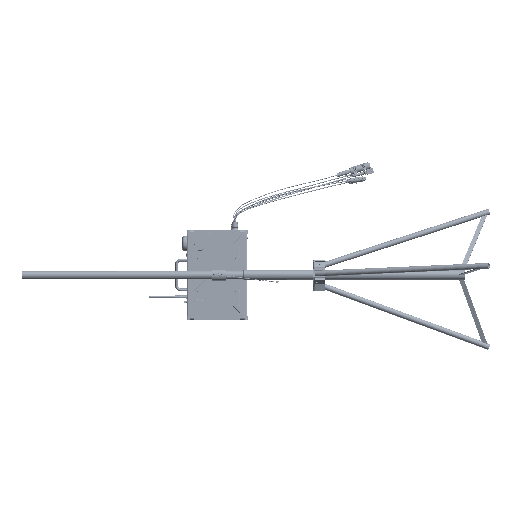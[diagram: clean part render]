
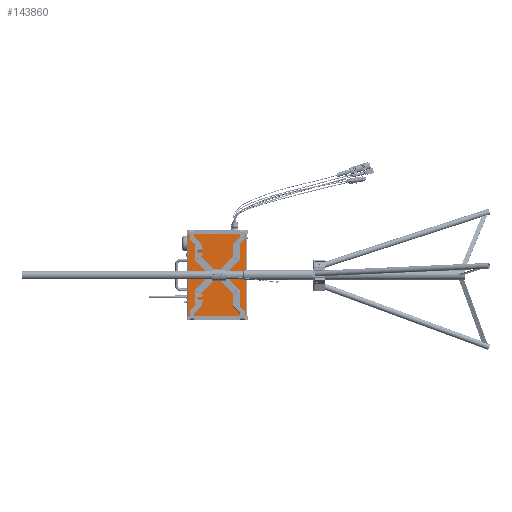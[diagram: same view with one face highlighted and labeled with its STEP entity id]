
A CAD part, front view. The second image highlights one B-rep face of the part: STEP entity #143860.
In plain terms, the highlighted planar face has unit normal (0, -1, 0).
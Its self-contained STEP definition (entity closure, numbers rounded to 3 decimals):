
#4572=PLANE('',#154106);
#8806=LINE('',#271359,#16848);
#8810=LINE('',#271373,#16852);
#8813=LINE('',#271379,#16855);
#8814=LINE('',#271380,#16856);
#16848=VECTOR('',#176209,10.);
#16852=VECTOR('',#176227,10.);
#16855=VECTOR('',#176232,10.);
#16856=VECTOR('',#176233,10.);
#24502=FACE_BOUND('',#43571,.T.);
#24503=FACE_BOUND('',#43572,.T.);
#24504=FACE_BOUND('',#43573,.T.);
#24505=FACE_BOUND('',#43574,.T.);
#24506=FACE_BOUND('',#43575,.T.);
#24507=FACE_BOUND('',#43576,.T.);
#24508=FACE_BOUND('',#43577,.T.);
#24509=FACE_BOUND('',#43578,.T.);
#34162=FACE_OUTER_BOUND('',#43570,.T.);
#43570=EDGE_LOOP('',(#59111,#59112,#59113,#59114));
#43571=EDGE_LOOP('',(#59115));
#43572=EDGE_LOOP('',(#59116));
#43573=EDGE_LOOP('',(#59117));
#43574=EDGE_LOOP('',(#59118));
#43575=EDGE_LOOP('',(#59119));
#43576=EDGE_LOOP('',(#59120));
#43577=EDGE_LOOP('',(#59121));
#43578=EDGE_LOOP('',(#59122));
#59111=ORIENTED_EDGE('',*,*,#95031,.T.);
#59112=ORIENTED_EDGE('',*,*,#95041,.T.);
#59113=ORIENTED_EDGE('',*,*,#95042,.T.);
#59114=ORIENTED_EDGE('',*,*,#95038,.T.);
#59115=ORIENTED_EDGE('',*,*,#94914,.T.);
#59116=ORIENTED_EDGE('',*,*,#94916,.T.);
#59117=ORIENTED_EDGE('',*,*,#94918,.T.);
#59118=ORIENTED_EDGE('',*,*,#94920,.T.);
#59119=ORIENTED_EDGE('',*,*,#94922,.T.);
#59120=ORIENTED_EDGE('',*,*,#94924,.T.);
#59121=ORIENTED_EDGE('',*,*,#94926,.T.);
#59122=ORIENTED_EDGE('',*,*,#94928,.T.);
#94914=EDGE_CURVE('',#114425,#114425,#127732,.T.);
#94916=EDGE_CURVE('',#114427,#114427,#127734,.T.);
#94918=EDGE_CURVE('',#114429,#114429,#127736,.T.);
#94920=EDGE_CURVE('',#114431,#114431,#127738,.T.);
#94922=EDGE_CURVE('',#114433,#114433,#127740,.T.);
#94924=EDGE_CURVE('',#114435,#114435,#127742,.T.);
#94926=EDGE_CURVE('',#114437,#114437,#127744,.T.);
#94928=EDGE_CURVE('',#114439,#114439,#127746,.T.);
#95031=EDGE_CURVE('',#114507,#114506,#8806,.T.);
#95038=EDGE_CURVE('',#114510,#114507,#8810,.T.);
#95041=EDGE_CURVE('',#114506,#114512,#8813,.T.);
#95042=EDGE_CURVE('',#114512,#114510,#8814,.T.);
#114425=VERTEX_POINT('',#271102);
#114427=VERTEX_POINT('',#271107);
#114429=VERTEX_POINT('',#271112);
#114431=VERTEX_POINT('',#271117);
#114433=VERTEX_POINT('',#271122);
#114435=VERTEX_POINT('',#271127);
#114437=VERTEX_POINT('',#271132);
#114439=VERTEX_POINT('',#271137);
#114506=VERTEX_POINT('',#271356);
#114507=VERTEX_POINT('',#271358);
#114510=VERTEX_POINT('',#271372);
#114512=VERTEX_POINT('',#271378);
#127732=CIRCLE('',#153968,1.7);
#127734=CIRCLE('',#153971,1.7);
#127736=CIRCLE('',#153974,1.7);
#127738=CIRCLE('',#153977,1.7);
#127740=CIRCLE('',#153980,1.7);
#127742=CIRCLE('',#153983,1.7);
#127744=CIRCLE('',#153986,1.7);
#127746=CIRCLE('',#153989,1.7);
#143860=ADVANCED_FACE('',(#34162,#24502,#24503,#24504,#24505,#24506,#24507,
#24508,#24509),#4572,.F.);
#153968=AXIS2_PLACEMENT_3D('',#271103,#175904,#175905);
#153971=AXIS2_PLACEMENT_3D('',#271108,#175910,#175911);
#153974=AXIS2_PLACEMENT_3D('',#271113,#175916,#175917);
#153977=AXIS2_PLACEMENT_3D('',#271118,#175922,#175923);
#153980=AXIS2_PLACEMENT_3D('',#271123,#175928,#175929);
#153983=AXIS2_PLACEMENT_3D('',#271128,#175934,#175935);
#153986=AXIS2_PLACEMENT_3D('',#271133,#175940,#175941);
#153989=AXIS2_PLACEMENT_3D('',#271138,#175946,#175947);
#154106=AXIS2_PLACEMENT_3D('',#271377,#176230,#176231);
#175904=DIRECTION('center_axis',(0.,1.,0.));
#175905=DIRECTION('ref_axis',(0.,0.,
1.));
#175910=DIRECTION('center_axis',(0.,1.,0.));
#175911=DIRECTION('ref_axis',(0.,0.,
1.));
#175916=DIRECTION('center_axis',(0.,1.,0.));
#175917=DIRECTION('ref_axis',(0.,0.,
1.));
#175922=DIRECTION('center_axis',(0.,1.,0.));
#175923=DIRECTION('ref_axis',(0.,0.,
1.));
#175928=DIRECTION('center_axis',(0.,1.,0.));
#175929=DIRECTION('ref_axis',(0.,0.,
1.));
#175934=DIRECTION('center_axis',(0.,1.,0.));
#175935=DIRECTION('ref_axis',(0.,0.,
1.));
#175940=DIRECTION('center_axis',(0.,1.,0.));
#175941=DIRECTION('ref_axis',(0.,0.,
1.));
#175946=DIRECTION('center_axis',(0.,1.,0.));
#175947=DIRECTION('ref_axis',(0.,0.,
1.));
#176209=DIRECTION('',(0.,0.,1.));
#176227=DIRECTION('',(1.,0.,0.));
#176230=DIRECTION('center_axis',(0.,1.,0.));
#176231=DIRECTION('ref_axis',(0.,0.,
-1.));
#176232=DIRECTION('',(-1.,0.,0.));
#176233=DIRECTION('',(0.,0.,-1.));
#271102=CARTESIAN_POINT('',(-221.368,2.414,574.921));
#271103=CARTESIAN_POINT('Origin',(-221.367,2.414,573.221));
#271107=CARTESIAN_POINT('',(-287.112,2.414,937.397));
#271108=CARTESIAN_POINT('Origin',(-287.112,2.414,935.697));
#271112=CARTESIAN_POINT('',(-352.594,2.414,574.873));
#271113=CARTESIAN_POINT('Origin',(-352.594,2.414,573.173));
#271117=CARTESIAN_POINT('',(-352.726,2.414,937.373));
#271118=CARTESIAN_POINT('Origin',(-352.725,2.414,935.673));
#271122=CARTESIAN_POINT('',(-155.886,2.414,937.444));
#271123=CARTESIAN_POINT('Origin',(-155.885,2.414,935.744));
#271127=CARTESIAN_POINT('',(-155.754,2.414,574.945));
#271128=CARTESIAN_POINT('Origin',(-155.754,2.414,573.245));
#271132=CARTESIAN_POINT('',(-221.499,2.414,937.421));
#271133=CARTESIAN_POINT('Origin',(-221.498,2.414,935.721));
#271137=CARTESIAN_POINT('',(-286.981,2.414,574.897));
#271138=CARTESIAN_POINT('Origin',(-286.98,2.414,573.197));
#271356=CARTESIAN_POINT('',(-129.506,2.414,939.504));
#271358=CARTESIAN_POINT('',(-129.372,2.414,569.504));
#271359=CARTESIAN_POINT('',(-129.406,2.414,662.004));
#271372=CARTESIAN_POINT('',(-378.972,2.414,569.414));
#271373=CARTESIAN_POINT('',(-382.972,2.414,569.412));
#271377=CARTESIAN_POINT('Origin',(-254.239,2.414,754.459));
#271378=CARTESIAN_POINT('',(-379.106,2.414,939.414));
#271379=CARTESIAN_POINT('',(-125.506,2.414,939.505));
#271380=CARTESIAN_POINT('',(-379.073,2.414,846.914));
